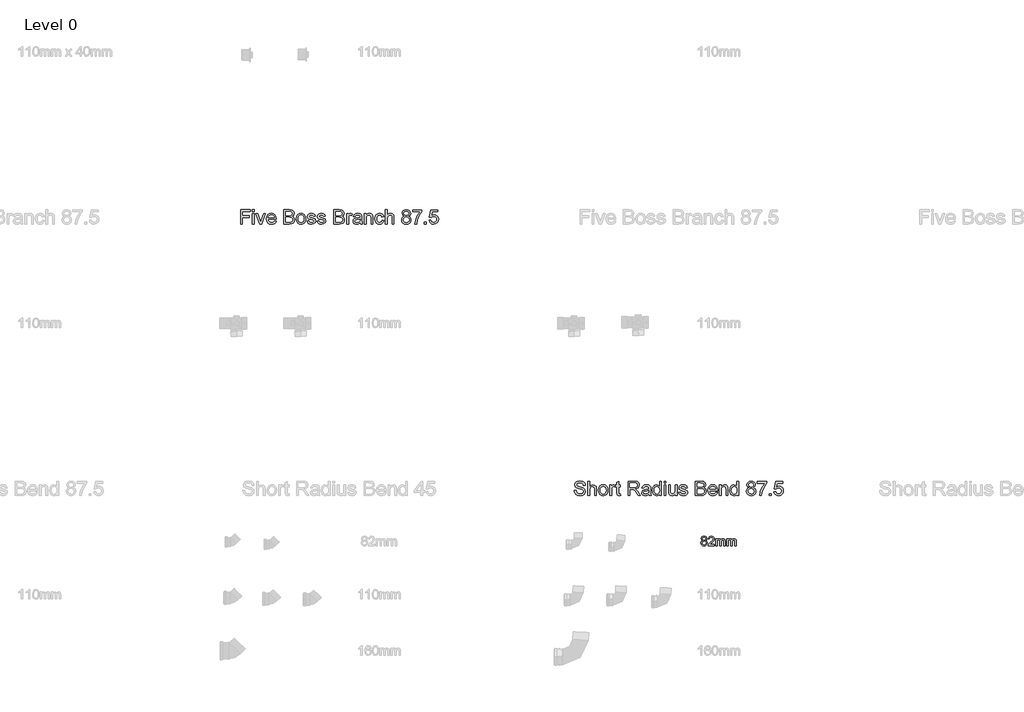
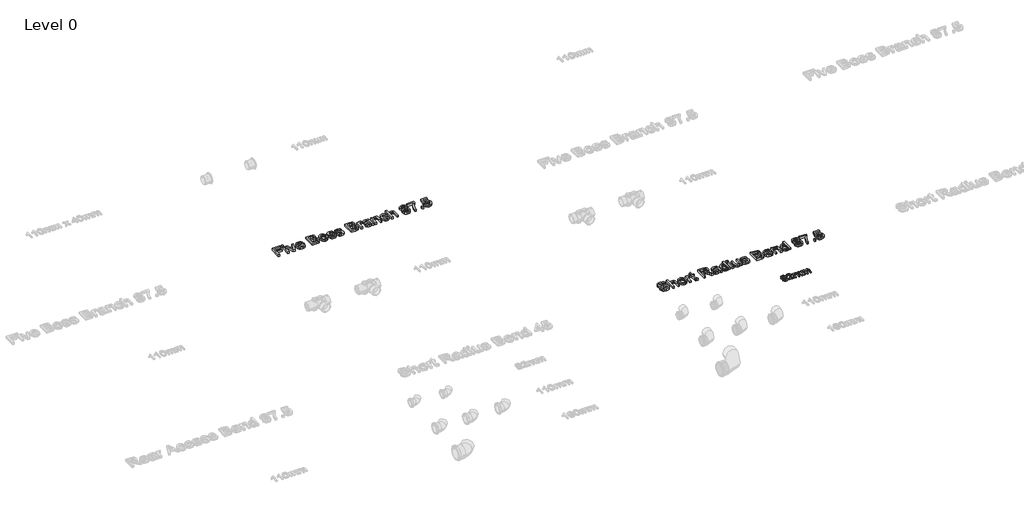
# One storey, part 15 of 23: 3 proxies.
"""IFC4 building model written with IfcOpenShell, lengths in millimetres."""

from ifc_helpers import new_model, si_unit, origin, origin_with_axes, place, context, project, spatial, polyline, outline, extrude, element, save

model = new_model("IFC4")

# Units and contexts
model_context = context("Model", 3, world=origin())
ifc_project = project(units=[si_unit("LENGTHUNIT", "METRE", prefix="MILLI")], contexts=[model_context])

# Site, building, storey
site = spatial("IfcSite", under=ifc_project)
building = spatial("IfcBuilding", under=site)
storey = spatial("IfcBuildingStorey", under=building, Name="Level 0", Elevation=0.0)

# Proxies
placement = place(None, origin())
element("IfcBuildingElementProxy", 1, Name="100mm Arial", ObjectType="100mm Arial", at=placement, inside=storey, context=model_context, shape_type="SweptSolid", body=[
    extrude(outline(polyline([(-3282.2581649, 440.881174), (-3293.4721072, 448.5254048), (-3297.1139341, 460.4244433), (-3295.1307611, 470.0458375), (-3289.1812418, 477.9965587), (-3279.9324438, 483.3330971), (-3268.0514341, 485.1119433), (-3256.0983091, 483.2910298), (-3246.7293188, 477.8282894), (-3240.6716264, 469.7513663), (-3238.6523957, 460.0879048), (-3242.2461457, 448.4893471), (-3253.147588, 440.881174), (-3240.0586457, 431.2297317), (-3235.5754726, 415.304251), (-3237.7990303, 403.537424), (-3244.4697034, 393.8138663), (-3254.7701841, 387.287424), (-3267.8831649, 385.1119433), (-3280.9961457, 387.2964385), (-3291.2966264, 393.849924), (-3297.9672995, 403.6666308), (-3300.1908572, 415.6407894), (-3295.5273957, 431.9388663), (-3282.2581649, 440.881174)]), holes=[polyline([(-3284.8062418, 460.0638663), (-3280.4432611, 450.4004048), (-3267.7389341, 446.6504048), (-3255.2870111, 450.3763663), (-3250.960088, 459.5109817), (-3255.4312418, 468.9701163), (-3267.8831649, 472.804251), (-3280.3711457, 469.054251), (-3284.8062418, 460.0638663)]), polyline([(-3287.8831649, 416.0734817), (-3285.8278764, 406.8066548), (-3278.5562418, 399.8715587), (-3267.7870111, 397.4196356), (-3253.1235495, 402.5758856), (-3247.8831649, 415.6888663), (-3253.2918188, 429.054251), (-3259.7221072, 433.0205971), (-3268.1956649, 434.3427125), (-3282.678838, 429.1263663), (-3287.8831649, 416.0734817)])]), origin_with_axes(), (0.0, 0.0, 1.0), 15.0),
    extrude(outline(polyline([(-3161.7293188, 398.9580971), (-3161.7293188, 386.6504048), (-3226.3447034, 386.6504048), (-3225.022588, 395.1359817), (-3217.5466264, 408.2008856), (-3202.1379726, 422.4677125), (-3180.8879726, 442.9725202), (-3175.5754726, 456.9148279), (-3180.5874918, 468.2008856), (-3193.6764341, 472.804251), (-3207.3182611, 468.3090587), (-3212.4985495, 455.881174), (-3224.8062418, 457.4196356), (-3221.8224678, 469.3246837), (-3215.3711457, 478.0205971), (-3205.7888139, 483.3391067), (-3193.4120111, 485.1119433), (-3180.9450639, 483.1407894), (-3171.3807611, 477.2273279), (-3165.2960255, 468.3931933), (-3163.2677803, 457.6600202), (-3165.4552803, 445.9893471), (-3172.7269149, 433.9220394), (-3190.3591264, 417.0590587), (-3204.5177803, 405.2201163), (-3210.0706649, 398.9580971), (-3161.7293188, 398.9580971)])), origin_with_axes(), (0.0, 0.0, 1.0), 15.0),
    extrude(outline(polyline([(-3146.3447034, 386.6504048), (-3146.3447034, 458.9580971), (-3134.0370111, 458.9580971), (-3134.0370111, 447.0590587), (-3125.5754726, 456.8066548), (-3113.5322034, 460.4965587), (-3101.2004726, 456.7345394), (-3094.4216264, 446.193674), (-3084.8182611, 456.9208375), (-3072.6908572, 460.4965587), (-3063.4390543, 459.0091788), (-3056.5971072, 454.5470394), (-3052.3693428, 446.9899481), (-3050.960088, 436.2177125), (-3050.960088, 386.6504048), (-3063.2677803, 386.6504048), (-3063.2677803, 430.929251), (-3064.4096072, 441.2056933), (-3068.5442226, 446.2657894), (-3075.5754726, 448.1888663), (-3087.678838, 443.2609817), (-3092.4985495, 427.4677125), (-3092.4985495, 386.6504048), (-3104.8062418, 386.6504048), (-3104.8062418, 432.2994433), (-3107.6547995, 444.2225202), (-3116.9937418, 448.1888663), (-3126.1043188, 445.5446356), (-3132.1620111, 437.804251), (-3134.0370111, 423.116751), (-3134.0370111, 386.6504048), (-3146.3447034, 386.6504048)])), origin_with_axes(), (0.0, 0.0, 1.0), 15.0),
    extrude(outline(polyline([(-3032.4985495, 386.6504048), (-3032.4985495, 458.9580971), (-3020.1908572, 458.9580971), (-3020.1908572, 447.0590587), (-3011.7293188, 456.8066548), (-2999.6860495, 460.4965587), (-2987.3543188, 456.7345394), (-2980.5754726, 446.193674), (-2970.9721072, 456.9208375), (-2958.8447034, 460.4965587), (-2949.5929005, 459.0091788), (-2942.7509534, 454.5470394), (-2938.5231889, 446.9899481), (-2937.1139341, 436.2177125), (-2937.1139341, 386.6504048), (-2949.4216264, 386.6504048), (-2949.4216264, 430.929251), (-2950.5634534, 441.2056933), (-2954.6980688, 446.2657894), (-2961.7293188, 448.1888663), (-2973.8326841, 443.2609817), (-2978.6523957, 427.4677125), (-2978.6523957, 386.6504048), (-2990.960088, 386.6504048), (-2990.960088, 432.2994433), (-2993.8086457, 444.2225202), (-3003.147588, 448.1888663), (-3012.2581649, 445.5446356), (-3018.3158572, 437.804251), (-3020.1908572, 423.116751), (-3020.1908572, 386.6504048), (-3032.4985495, 386.6504048)])), origin_with_axes(), (0.0, 0.0, 1.0), 15.0),
])
element("IfcBuildingElementProxy", 2, Name="150mm Arial", ObjectType="150mm Arial", at=placement, inside=storey, context=model_context, shape_type="SweptSolid", body=[
    extrude(outline(polyline([(-8044.4510666, 3705.2145219), (-8044.4510666, 3852.9068296), (-7945.2202973, 3852.9068296), (-7945.2202973, 3834.4452911), (-8025.9895281, 3834.4452911), (-8025.9895281, 3790.5991373), (-7956.7587589, 3790.5991373), (-7956.7587589, 3772.1375988), (-8025.9895281, 3772.1375988), (-8025.9895281, 3705.2145219), (-8044.4510666, 3705.2145219)])), origin_with_axes(), (0.0, 0.0, 1.0), 25.0),
    extrude(outline(polyline([(-7922.1433743, 3834.4452911), (-7922.1433743, 3852.9068296), (-7903.6818358, 3852.9068296), (-7903.6818358, 3834.4452911), (-7922.1433743, 3834.4452911)])), origin_with_axes(), (0.0, 0.0, 1.0), 25.0),
    extrude(outline(polyline([(-7922.1433743, 3705.2145219), (-7922.1433743, 3813.6760604), (-7903.6818358, 3813.6760604), (-7903.6818358, 3705.2145219), (-7922.1433743, 3705.2145219)])), origin_with_axes(), (0.0, 0.0, 1.0), 25.0),
    extrude(outline(polyline([(-7849.3789512, 3705.2145219), (-7887.5279897, 3813.6760604), (-7867.9847204, 3813.6760604), (-7844.8717397, 3748.7000988), (-7837.912605, 3726.8491373), (-7831.0977012, 3747.4741373), (-7807.8404897, 3813.6760604), (-7788.2972204, 3813.6760604), (-7825.9775089, 3705.2145219), (-7849.3789512, 3705.2145219)])), origin_with_axes(), (0.0, 0.0, 1.0), 25.0),
    extrude(outline(polyline([(-7696.2058743, 3737.5222142), (-7678.1049127, 3735.2145219), (-7684.6268478, 3721.5756998), (-7695.0339993, 3711.3803873), (-7709.0919921, 3705.025219), (-7726.5664512, 3702.9068296), (-7748.2281098, 3706.5621782), (-7764.8957781, 3717.5282238), (-7775.5237829, 3735.0928272), (-7779.0664512, 3758.5438488), (-7775.4877252, 3782.7836325), (-7764.7515473, 3800.9116373), (-7748.3092397, 3812.2157238), (-7727.6121243, 3815.9837527), (-7707.5595401, 3812.2247383), (-7691.5364031, 3800.947695), (-7681.030093, 3782.8557479), (-7677.5279897, 3758.6520219), (-7677.6361627, 3753.6760604), (-7760.6049127, 3753.6760604), (-7757.4092997, 3739.8569498), (-7749.9859223, 3729.697695), (-7739.2722805, 3723.4506998), (-7726.2058743, 3721.3683681), (-7708.1049127, 3725.2265411), (-7696.2058743, 3737.5222142)]), holes=[polyline([(-7760.6049127, 3772.1375988), (-7695.9895281, 3772.1375988), (-7698.4865233, 3781.8912046), (-7703.381355, 3788.8683681), (-7714.1445762, 3795.3587527), (-7727.6842397, 3797.5222142), (-7740.1286507, 3795.7959522), (-7750.4186147, 3790.6171661), (-7757.5715594, 3782.5447503), (-7760.6049127, 3772.1375988)])]), origin_with_axes(), (0.0, 0.0, 1.0), 25.0),
    extrude(outline(polyline([(-7599.0664512, 3705.2145219), (-7599.0664512, 3852.9068296), (-7542.7082781, 3852.9068296), (-7515.1061147, 3848.5618777), (-7505.8302733, 3843.049558), (-7498.8080377, 3835.2025027), (-7492.912605, 3816.3082719), (-7497.8705377, 3799.0546661), (-7512.8525089, 3785.9837527), (-7502.3912709, 3780.5210123), (-7494.6614031, 3772.2097142), (-7489.8882661, 3761.5997383), (-7488.2972204, 3749.2409642), (-7492.6421723, 3729.3912046), (-7503.4053935, 3715.2565892), (-7519.4690954, 3707.7565892), (-7543.1409704, 3705.2145219), (-7599.0664512, 3705.2145219)]), holes=[polyline([(-7580.6049127, 3723.6760604), (-7542.7443358, 3723.6760604), (-7529.0424127, 3724.3972142), (-7517.4498647, 3728.4176469), (-7509.7695762, 3736.6207719), (-7506.7587589, 3749.0606758), (-7510.2924127, 3763.4116373), (-7521.74073, 3771.9753392), (-7544.5472204, 3774.4452911), (-7580.6049127, 3774.4452911), (-7580.6049127, 3723.6760604)]), polyline([(-7580.6049127, 3792.9068296), (-7546.8909704, 3792.9068296), (-7527.2034704, 3794.4933681), (-7515.3585185, 3801.3263008), (-7511.3741435, 3813.3515411), (-7515.0880858, 3825.3948104), (-7525.725105, 3832.5162046), (-7549.4510666, 3834.4452911), (-7580.6049127, 3834.4452911), (-7580.6049127, 3792.9068296)])]), origin_with_axes(), (0.0, 0.0, 1.0), 25.0),
    extrude(outline(polyline([(-7469.835682, 3759.4452911), (-7465.8422925, 3785.5961325), (-7453.8621243, 3803.9765411), (-7439.0604416, 3812.9819498), (-7421.3380858, 3815.9837527), (-7401.9435546, 3812.3284041), (-7386.4522685, 3801.3623585), (-7376.2975209, 3783.9510003), (-7372.912605, 3760.9597142), (-7374.4089993, 3742.3088729), (-7378.898182, 3728.1111565), (-7386.249444, 3717.4786445), (-7396.3320762, 3709.5234161), (-7408.3077372, 3704.5609762), (-7421.3380858, 3702.9068296), (-7440.9669921, 3706.5486565), (-7456.4402493, 3717.4741373), (-7466.4868238, 3735.2505796), (-7469.835682, 3759.4452911)]), holes=[polyline([(-7451.3741435, 3759.4813488), (-7449.2377252, 3742.7731157), (-7442.8284704, 3730.86957), (-7433.1830377, 3723.7436686), (-7421.3380858, 3721.3683681), (-7409.5472204, 3723.7571902), (-7399.9198166, 3730.9236565), (-7393.5105618, 3742.9849546), (-7391.3741435, 3760.0582719), (-7393.5240834, 3776.2797262), (-7399.9739031, 3788.0210123), (-7409.6148286, 3795.1469137), (-7421.3380858, 3797.5222142), (-7433.1830377, 3795.1559282), (-7442.8284704, 3788.05707), (-7449.2377252, 3776.1805676), (-7451.3741435, 3759.4813488)])]), origin_with_axes(), (0.0, 0.0, 1.0), 25.0),
    extrude(outline(polyline([(-7359.0664512, 3737.5222142), (-7340.6049127, 3739.8299065), (-7337.6932541, 3731.9332719), (-7332.0592397, 3726.1279835), (-7312.4799127, 3721.3683681), (-7293.6577973, 3725.7313488), (-7287.5279897, 3735.9717335), (-7293.693855, 3744.2650027), (-7312.6962589, 3749.5294258), (-7340.4967397, 3758.5618777), (-7352.6301531, 3769.1087527), (-7356.7587589, 3784.0005796), (-7353.4414512, 3797.7565892), (-7344.3909704, 3808.2674065), (-7332.6541916, 3813.7301469), (-7316.7707781, 3815.9837527), (-7294.3068358, 3812.3599546), (-7280.0279897, 3802.5522623), (-7273.6818358, 3785.9837527), (-7292.1433743, 3783.6760604), (-7299.08448, 3793.8623585), (-7315.3284704, 3797.5222142), (-7332.9967397, 3794.0246181), (-7338.2972204, 3785.8755796), (-7336.0977012, 3780.5029835), (-7329.210682, 3776.4284642), (-7313.3092397, 3772.4981758), (-7286.2118839, 3763.8082719), (-7273.6277493, 3753.9645219), (-7269.0664512, 3737.9188488), (-7274.4210185, 3720.2505796), (-7289.8717397, 3707.43207), (-7312.7323166, 3702.9068296), (-7331.3471002, 3705.08832), (-7344.9318358, 3711.6327911), (-7354.0003454, 3722.4681277), (-7359.0664512, 3737.5222142)])), origin_with_axes(), (0.0, 0.0, 1.0), 25.0),
    extrude(outline(polyline([(-7255.2202973, 3737.5222142), (-7236.7587589, 3739.8299065), (-7233.8471002, 3731.9332719), (-7228.2130858, 3726.1279835), (-7208.6337589, 3721.3683681), (-7189.8116435, 3725.7313488), (-7183.6818358, 3735.9717335), (-7189.8477012, 3744.2650027), (-7208.850105, 3749.5294258), (-7236.6505858, 3758.5618777), (-7248.7839993, 3769.1087527), (-7252.912605, 3784.0005796), (-7249.5952973, 3797.7565892), (-7240.5448166, 3808.2674065), (-7228.8080377, 3813.7301469), (-7212.9246243, 3815.9837527), (-7190.460682, 3812.3599546), (-7176.1818358, 3802.5522623), (-7169.835682, 3785.9837527), (-7188.2972204, 3783.6760604), (-7195.2383262, 3793.8623585), (-7211.4823166, 3797.5222142), (-7229.1505858, 3794.0246181), (-7234.4510666, 3785.8755796), (-7232.2515473, 3780.5029835), (-7225.3645281, 3776.4284642), (-7209.4630858, 3772.4981758), (-7182.36573, 3763.8082719), (-7169.7815954, 3753.9645219), (-7165.2202973, 3737.9188488), (-7170.5748647, 3720.2505796), (-7186.0255858, 3707.43207), (-7208.8861627, 3702.9068296), (-7227.5009464, 3705.08832), (-7241.085682, 3711.6327911), (-7250.1541916, 3722.4681277), (-7255.2202973, 3737.5222142)])), origin_with_axes(), (0.0, 0.0, 1.0), 25.0),
    extrude(outline(polyline([(-7084.4510666, 3705.2145219), (-7084.4510666, 3852.9068296), (-7028.0928935, 3852.9068296), (-7000.49073, 3848.5618777), (-6991.2148887, 3843.049558), (-6984.1926531, 3835.2025027), (-6978.2972204, 3816.3082719), (-6983.2551531, 3799.0546661), (-6998.2371243, 3785.9837527), (-6987.7758863, 3780.5210123), (-6980.0460185, 3772.2097142), (-6975.2728815, 3761.5997383), (-6973.6818358, 3749.2409642), (-6978.0267877, 3729.3912046), (-6988.7900089, 3715.2565892), (-7004.8537108, 3707.7565892), (-7028.5255858, 3705.2145219), (-7084.4510666, 3705.2145219)]), holes=[polyline([(-7065.9895281, 3723.6760604), (-7028.1289512, 3723.6760604), (-7014.4270281, 3724.3972142), (-7002.83448, 3728.4176469), (-6995.1541916, 3736.6207719), (-6992.1433743, 3749.0606758), (-6995.6770281, 3763.4116373), (-7007.1253454, 3771.9753392), (-7029.9318358, 3774.4452911), (-7065.9895281, 3774.4452911), (-7065.9895281, 3723.6760604)]), polyline([(-7065.9895281, 3792.9068296), (-7032.2755858, 3792.9068296), (-7012.5880858, 3794.4933681), (-7000.7431339, 3801.3263008), (-6996.7587589, 3813.3515411), (-7000.4727012, 3825.3948104), (-7011.1097204, 3832.5162046), (-7034.835682, 3834.4452911), (-7065.9895281, 3834.4452911), (-7065.9895281, 3792.9068296)])]), origin_with_axes(), (0.0, 0.0, 1.0), 25.0),
    extrude(outline(polyline([(-6950.6049127, 3705.2145219), (-6950.6049127, 3813.6760604), (-6934.4510666, 3813.6760604), (-6934.4510666, 3797.6303873), (-6922.9847204, 3812.4140411), (-6911.4462589, 3815.9837527), (-6892.912605, 3810.2866373), (-6899.0784704, 3793.7361565), (-6912.0592397, 3797.5222142), (-6922.4979416, 3793.8803873), (-6929.1505858, 3783.7842335), (-6932.1433743, 3762.2217335), (-6932.1433743, 3705.2145219), (-6950.6049127, 3705.2145219)])), origin_with_axes(), (0.0, 0.0, 1.0), 25.0),
    extrude(outline(polyline([(-6812.1433743, 3719.0606758), (-6830.0460185, 3706.5486565), (-6849.8236627, 3702.9068296), (-6865.2518478, 3705.0973344), (-6876.632557, 3711.6688488), (-6883.6502853, 3721.6478152), (-6885.9895281, 3734.0606758), (-6882.4558743, 3748.6640411), (-6873.1710185, 3759.2650027), (-6860.2443358, 3765.322695), (-6844.2707781, 3768.0991373), (-6812.2515473, 3774.4452911), (-6812.1433743, 3778.5558681), (-6813.4144079, 3786.7950508), (-6817.2275089, 3792.1856758), (-6825.7551531, 3796.1880796), (-6837.6361627, 3797.5222142), (-6856.3140473, 3793.9705315), (-6865.2202973, 3781.3683681), (-6883.6818358, 3783.6760604), (-6875.695057, 3801.7049065), (-6859.6133262, 3812.2698104), (-6835.256355, 3815.9837527), (-6812.882557, 3812.7025027), (-6800.2443358, 3804.46332), (-6794.5832781, 3791.9332719), (-6793.6818358, 3775.7794258), (-6793.6818358, 3752.8106758), (-6792.7443358, 3720.7373585), (-6789.0664512, 3705.2145219), (-6807.5279897, 3705.2145219), (-6812.1433743, 3719.0606758)]), holes=[polyline([(-6812.1433743, 3755.9837527), (-6841.9270281, 3750.322695), (-6857.8104416, 3747.3299065), (-6865.0039512, 3742.4621181), (-6867.5279897, 3735.3587527), (-6862.0291916, 3725.3707719), (-6845.8933743, 3721.3683681), (-6827.2154897, 3725.7854354), (-6815.1722204, 3736.4765411), (-6812.2515473, 3750.7553873), (-6812.1433743, 3755.9837527)])]), origin_with_axes(), (0.0, 0.0, 1.0), 25.0),
    extrude(outline(polyline([(-6768.2972204, 3705.2145219), (-6768.2972204, 3813.6760604), (-6749.835682, 3813.6760604), (-6749.835682, 3798.5318296), (-6735.7190954, 3811.6207719), (-6716.4462589, 3815.9837527), (-6699.0123647, 3812.4681277), (-6687.1133262, 3803.2373585), (-6681.5784704, 3789.6616373), (-6680.6049127, 3771.8130796), (-6680.6049127, 3705.2145219), (-6699.0664512, 3705.2145219), (-6699.0664512, 3769.3250988), (-6701.193855, 3785.6592335), (-6708.7118839, 3794.2950508), (-6721.3861627, 3797.5222142), (-6732.1989632, 3795.7103152), (-6741.4162108, 3790.2746181), (-6747.7308142, 3779.7728152), (-6749.835682, 3762.7625988), (-6749.835682, 3705.2145219), (-6768.2972204, 3705.2145219)])), origin_with_axes(), (0.0, 0.0, 1.0), 25.0),
    extrude(outline(polyline([(-6585.9895281, 3744.4452911), (-6567.5279897, 3742.1375988), (-6572.6752252, 3725.7178272), (-6582.3477012, 3713.3094738), (-6595.6349608, 3705.5074907), (-6611.6265473, 3702.9068296), (-6631.264468, 3706.5351349), (-6646.6205377, 3717.4200508), (-6656.5318959, 3735.0838128), (-6659.835682, 3759.0486565), (-6654.1926531, 3789.7157238), (-6647.0712589, 3801.2136205), (-6636.9931339, 3809.4212527), (-6624.936343, 3814.3431277), (-6611.8789512, 3815.9837527), (-6596.2794921, 3813.7301469), (-6583.8080377, 3806.9693296), (-6574.8612228, 3796.0618777), (-6569.835682, 3781.3683681), (-6588.2972204, 3779.0606758), (-6596.8609223, 3792.8888008), (-6611.7347204, 3797.5222142), (-6623.6653094, 3795.2415652), (-6633.1349608, 3788.3996181), (-6639.3143478, 3776.6267815), (-6641.3741435, 3759.5534642), (-6639.3594199, 3742.2502791), (-6633.3152493, 3730.4368777), (-6624.0168719, 3723.6354955), (-6612.2395281, 3721.3683681), (-6602.6797324, 3722.7836325), (-6594.8416916, 3727.0294258), (-6589.140069, 3734.213921), (-6585.9895281, 3744.4452911)])), origin_with_axes(), (0.0, 0.0, 1.0), 25.0),
    extrude(outline(polyline([(-6551.3741435, 3705.2145219), (-6551.3741435, 3852.9068296), (-6532.912605, 3852.9068296), (-6532.912605, 3798.603945), (-6518.5165714, 3811.6388008), (-6500.7852012, 3815.9837527), (-6480.0520281, 3811.2421661), (-6467.4678935, 3798.135195), (-6463.6818358, 3773.8683681), (-6463.6818358, 3705.2145219), (-6482.1433743, 3705.2145219), (-6482.1433743, 3771.9573104), (-6483.6127252, 3783.5138008), (-6488.0207781, 3791.4284642), (-6495.1241435, 3795.9987767), (-6504.679432, 3797.5222142), (-6519.8056339, 3793.4116373), (-6529.9017877, 3782.2698104), (-6532.912605, 3762.8347142), (-6532.912605, 3705.2145219), (-6551.3741435, 3705.2145219)])), origin_with_axes(), (0.0, 0.0, 1.0), 25.0),
    extrude(outline(polyline([(-6358.3212589, 3786.5606758), (-6375.1421723, 3798.0270219), (-6380.6049127, 3815.8755796), (-6377.6301531, 3830.307671), (-6368.7058743, 3842.2337527), (-6354.8326772, 3850.2385604), (-6337.0111627, 3852.9068296), (-6319.0814752, 3850.1754594), (-6305.0279897, 3841.9813488), (-6295.9414512, 3829.8659642), (-6292.912605, 3815.3707719), (-6298.30323, 3797.9729354), (-6314.6553935, 3786.5606758), (-6303.2927132, 3780.705808), (-6295.02198, 3772.0835123), (-6289.9784103, 3761.1084522), (-6288.2972204, 3748.1952911), (-6291.632557, 3730.5450508), (-6301.6385666, 3715.9597142), (-6317.0892877, 3706.1700508), (-6336.7587589, 3702.9068296), (-6356.42823, 3706.1835724), (-6371.8789512, 3716.0138008), (-6381.8849608, 3730.7388609), (-6385.2202973, 3748.7000988), (-6383.4714993, 3762.1135604), (-6378.225105, 3773.1472142), (-6369.7515473, 3781.4224546), (-6358.3212589, 3786.5606758)]), holes=[polyline([(-6366.7587589, 3749.3491373), (-6363.6758262, 3735.4488969), (-6352.7683743, 3725.0462527), (-6336.6145281, 3721.3683681), (-6324.0484223, 3723.3019618), (-6314.6193358, 3729.1027431), (-6308.7239031, 3737.8872984), (-6306.7587589, 3748.7722142), (-6308.7870041, 3759.8419258), (-6314.8717397, 3768.8202911), (-6324.5171723, 3774.7698104), (-6337.2275089, 3776.7529835), (-6349.6178334, 3774.7968536), (-6358.9522685, 3768.9284642), (-6364.8071363, 3760.1213729), (-6366.7587589, 3749.3491373)]), polyline([(-6362.1433743, 3815.3347142), (-6360.5072565, 3807.27582), (-6355.5989031, 3800.8395219), (-6347.5625449, 3796.6207719), (-6336.5424127, 3795.2145219), (-6325.7791916, 3796.6117575), (-6317.8645281, 3800.8034642), (-6312.9967397, 3807.0234161), (-6311.3741435, 3814.5053873), (-6313.0508262, 3822.2713128), (-6318.0808743, 3828.6940892), (-6326.1037108, 3833.0074907), (-6336.7587589, 3834.4452911), (-6347.4814151, 3833.0390411), (-6355.49073, 3828.8202911), (-6360.4802132, 3822.6363969), (-6362.1433743, 3815.3347142)])]), origin_with_axes(), (0.0, 0.0, 1.0), 25.0),
    extrude(outline(polyline([(-6272.1433743, 3832.1375988), (-6272.1433743, 3850.5991373), (-6175.2202973, 3850.5991373), (-6175.2202973, 3835.6712527), (-6202.7142877, 3795.9537046), (-6223.7539512, 3745.3467335), (-6230.6049127, 3705.2145219), (-6249.0664512, 3705.2145219), (-6241.7287108, 3746.8611565), (-6221.5904897, 3793.9344738), (-6193.6818358, 3832.1375988), (-6272.1433743, 3832.1375988)])), origin_with_axes(), (0.0, 0.0, 1.0), 25.0),
    extrude(outline(polyline([(-6149.835682, 3705.2145219), (-6149.835682, 3723.6760604), (-6131.3741435, 3723.6760604), (-6131.3741435, 3705.2145219), (-6149.835682, 3705.2145219)])), origin_with_axes(), (0.0, 0.0, 1.0), 25.0),
    extrude(outline(polyline([(-6101.3741435, 3744.4452911), (-6082.912605, 3746.7529835), (-6079.523182, 3735.6697503), (-6073.6097204, 3727.7325508), (-6065.1992637, 3722.9594137), (-6054.318855, 3721.3683681), (-6041.085682, 3723.5814089), (-6031.1698166, 3730.2205315), (-6024.9769079, 3740.5195099), (-6022.912605, 3753.7121181), (-6024.8461988, 3766.1339931), (-6030.64698, 3775.635195), (-6040.3600209, 3781.665844), (-6054.0303935, 3783.6760604), (-6070.2383262, 3780.4669258), (-6080.6049127, 3772.1375988), (-6099.0664512, 3774.4452911), (-6082.912605, 3850.5991373), (-6011.3741435, 3850.5991373), (-6011.3741435, 3832.1375988), (-6067.9847204, 3832.1375988), (-6075.881355, 3791.4645219), (-6062.6932541, 3799.4693296), (-6048.8741435, 3802.1375988), (-6031.6250449, 3798.8293056), (-6017.3056339, 3788.9044258), (-6007.6647084, 3773.7782238), (-6004.4510666, 3754.8659642), (-6007.3446964, 3736.4044258), (-6016.0255858, 3720.6111565), (-6032.648182, 3707.3329113), (-6054.3909704, 3702.9068296), (-6072.5234824, 3705.7508801), (-6086.9690954, 3714.2830315), (-6096.8714392, 3727.5116974), (-6101.3741435, 3744.4452911)])), origin_with_axes(), (0.0, 0.0, 1.0), 25.0),
])
element("IfcBuildingElementProxy", 3, Name="150mm Arial", ObjectType="150mm Arial", at=placement, inside=storey, context=model_context, shape_type="SweptSolid", body=[
    extrude(outline(polyline([(-4605.6049127, 955.9837527), (-4587.1433743, 955.9837527), (-4581.193855, 937.5041854), (-4566.662605, 925.8214931), (-4544.523182, 921.3683681), (-4525.2323166, 924.7397623), (-4512.7743839, 934.0065892), (-4508.6818358, 946.3924065), (-4511.7467397, 957.9128392), (-4524.2948166, 966.2962527), (-4551.1758262, 973.3455315), (-4580.1121243, 982.4500988), (-4595.8152493, 996.1880796), (-4600.9895281, 1014.541445), (-4599.389468, 1025.3542455), (-4594.5892877, 1035.4368777), (-4586.7151892, 1043.9825508), (-4575.8933743, 1050.1844738), (-4548.5255858, 1055.2145219), (-4519.318855, 1049.9500988), (-4508.1229416, 1043.4506998), (-4499.8477012, 1034.4813488), (-4494.6103214, 1023.6009402), (-4492.5279897, 1011.3683681), (-4510.9895281, 1011.3683681), (-4514.3789512, 1022.3839931), (-4521.4462589, 1030.3347142), (-4532.4889272, 1035.1484161), (-4547.804432, 1036.7529835), (-4563.4805137, 1035.166445), (-4574.2347204, 1030.4068296), (-4580.4546723, 1023.4026229), (-4582.5279897, 1015.0823104), (-4581.0586387, 1007.9879594), (-4576.6505858, 1002.2818296), (-4546.506355, 991.9693296), (-4513.8380858, 982.7025027), (-4503.3137469, 976.0047863), (-4495.9714993, 967.7385604), (-4490.2202973, 946.8611565), (-4491.874444, 935.4804474), (-4496.8368839, 924.77582), (-4504.9047925, 915.5630796), (-4515.8753454, 908.6580315), (-4543.8020281, 902.9068296), (-4561.889468, 904.4573104), (-4576.7767877, 909.1087527), (-4588.6352613, 916.8791854), (-4597.6361627, 927.7866373), (-4603.4144079, 941.0738969), (-4605.6049127, 955.9837527)])), origin_with_axes(), (0.0, 0.0, 1.0), 25.0),
    extrude(outline(polyline([(-4464.835682, 905.2145219), (-4464.835682, 1052.9068296), (-4446.3741435, 1052.9068296), (-4446.3741435, 998.603945), (-4431.9781098, 1011.6388008), (-4414.2467397, 1015.9837527), (-4393.5135666, 1011.2421661), (-4380.929432, 998.135195), (-4377.1433743, 973.8683681), (-4377.1433743, 905.2145219), (-4395.6049127, 905.2145219), (-4395.6049127, 971.9573104), (-4397.0742637, 983.5138008), (-4401.4823166, 991.4284642), (-4408.585682, 995.9987767), (-4418.1409704, 997.5222142), (-4433.2671723, 993.4116373), (-4443.3633262, 982.2698104), (-4446.3741435, 962.8347142), (-4446.3741435, 905.2145219), (-4464.835682, 905.2145219)])), origin_with_axes(), (0.0, 0.0, 1.0), 25.0),
    extrude(outline(polyline([(-4356.3741435, 959.4452911), (-4352.3807541, 985.5961325), (-4340.4005858, 1003.9765411), (-4325.5989031, 1012.9819498), (-4307.8765473, 1015.9837527), (-4288.4820161, 1012.3284041), (-4272.99073, 1001.3623585), (-4262.8359824, 983.9510003), (-4259.4510666, 960.9597142), (-4260.9474608, 942.3088729), (-4265.4366435, 928.1111565), (-4272.7879055, 917.4786445), (-4282.8705377, 909.5234161), (-4294.8461988, 904.5609762), (-4307.8765473, 902.9068296), (-4327.5054536, 906.5486565), (-4342.9787108, 917.4741373), (-4353.0252853, 935.2505796), (-4356.3741435, 959.4452911)]), holes=[polyline([(-4337.912605, 959.4813488), (-4335.7761868, 942.7731157), (-4329.366932, 930.86957), (-4319.7214993, 923.7436686), (-4307.8765473, 921.3683681), (-4296.085682, 923.7571902), (-4286.4582781, 930.9236565), (-4280.0490233, 942.9849546), (-4277.912605, 960.0582719), (-4280.0625449, 976.2797262), (-4286.5123647, 988.0210123), (-4296.1532901, 995.1469137), (-4307.8765473, 997.5222142), (-4319.7214993, 995.1559282), (-4329.366932, 988.05707), (-4335.7761868, 976.1805676), (-4337.912605, 959.4813488)])]), origin_with_axes(), (0.0, 0.0, 1.0), 25.0),
    extrude(outline(polyline([(-4238.6818358, 905.2145219), (-4238.6818358, 1013.6760604), (-4222.5279897, 1013.6760604), (-4222.5279897, 997.6303873), (-4211.0616435, 1012.4140411), (-4199.523182, 1015.9837527), (-4180.9895281, 1010.2866373), (-4187.1553935, 993.7361565), (-4200.1361627, 997.5222142), (-4210.5748647, 993.8803873), (-4217.2275089, 983.7842335), (-4220.2202973, 962.2217335), (-4220.2202973, 905.2145219), (-4238.6818358, 905.2145219)])), origin_with_axes(), (0.0, 0.0, 1.0), 25.0),
    extrude(outline(polyline([(-4130.2202973, 920.6111565), (-4127.912605, 904.6736565), (-4141.7227012, 902.9068296), (-4157.1914512, 905.9717335), (-4164.9077973, 914.0125988), (-4167.1433743, 934.9621181), (-4167.1433743, 995.2145219), (-4180.9895281, 995.2145219), (-4180.9895281, 1013.6760604), (-4167.1433743, 1013.6760604), (-4167.1433743, 1040.0342335), (-4148.6818358, 1050.8875988), (-4148.6818358, 1013.6760604), (-4130.2202973, 1013.6760604), (-4130.2202973, 995.2145219), (-4148.6818358, 995.2145219), (-4148.6818358, 935.5029835), (-4147.7082781, 925.9837527), (-4144.55323, 922.6123585), (-4138.2611627, 921.3683681), (-4130.2202973, 920.6111565)])), origin_with_axes(), (0.0, 0.0, 1.0), 25.0),
    extrude(outline(polyline([(-4051.7587589, 905.2145219), (-4051.7587589, 1052.9068296), (-3988.116932, 1052.9068296), (-3958.5676531, 1048.9224546), (-3949.4721002, 1043.4056277), (-3942.413807, 1034.8238969), (-3937.8840594, 1024.1823705), (-3936.3741435, 1012.4861565), (-3938.8756459, 997.9368777), (-3946.3801531, 985.8755796), (-3959.1130257, 977.0324306), (-3977.2996243, 972.1375988), (-3966.8068358, 964.2409642), (-3951.8428935, 945.2385604), (-3927.2154897, 905.2145219), (-3948.6698166, 905.2145219), (-3967.8885666, 935.8275027), (-3981.7707781, 956.0919258), (-3991.5243839, 965.6652431), (-4000.304432, 969.1808681), (-4011.0135666, 969.8299065), (-4033.2972204, 969.8299065), (-4033.2972204, 905.2145219), (-4051.7587589, 905.2145219)]), holes=[polyline([(-4033.2972204, 988.291445), (-3991.975105, 988.291445), (-3970.8993839, 990.9056277), (-3958.92823, 999.2710123), (-3954.835682, 1011.8010604), (-3956.7873046, 1020.806469), (-3962.6421723, 1028.0630796), (-3972.7157901, 1032.8497383), (-3987.3236627, 1034.4452911), (-4033.2972204, 1034.4452911), (-4033.2972204, 988.291445)])]), origin_with_axes(), (0.0, 0.0, 1.0), 25.0),
    extrude(outline(polyline([(-3837.1433743, 919.0606758), (-3855.0460185, 906.5486565), (-3874.8236627, 902.9068296), (-3890.2518478, 905.0973344), (-3901.632557, 911.6688488), (-3908.6502853, 921.6478152), (-3910.9895281, 934.0606758), (-3907.4558743, 948.6640411), (-3898.1710185, 959.2650027), (-3885.2443358, 965.322695), (-3869.2707781, 968.0991373), (-3837.2515473, 974.4452911), (-3837.1433743, 978.5558681), (-3838.4144079, 986.7950508), (-3842.2275089, 992.1856758), (-3850.7551531, 996.1880796), (-3862.6361627, 997.5222142), (-3881.3140473, 993.9705315), (-3890.2202973, 981.3683681), (-3908.6818358, 983.6760604), (-3900.695057, 1001.7049065), (-3884.6133262, 1012.2698104), (-3860.256355, 1015.9837527), (-3837.882557, 1012.7025027), (-3825.2443358, 1004.46332), (-3819.5832781, 991.9332719), (-3818.6818358, 975.7794258), (-3818.6818358, 952.8106758), (-3817.7443358, 920.7373585), (-3814.0664512, 905.2145219), (-3832.5279897, 905.2145219), (-3837.1433743, 919.0606758)]), holes=[polyline([(-3837.1433743, 955.9837527), (-3866.9270281, 950.322695), (-3882.8104416, 947.3299065), (-3890.0039512, 942.4621181), (-3892.5279897, 935.3587527), (-3887.0291916, 925.3707719), (-3870.8933743, 921.3683681), (-3852.2154897, 925.7854354), (-3840.1722204, 936.4765411), (-3837.2515473, 950.7553873), (-3837.1433743, 955.9837527)])]), origin_with_axes(), (0.0, 0.0, 1.0), 25.0),
    extrude(outline(polyline([(-3726.3741435, 905.2145219), (-3726.3741435, 922.6303873), (-3738.5886868, 907.837719), (-3755.4727012, 902.9068296), (-3767.4077973, 904.6916854), (-3778.3332781, 910.0462527), (-3787.5820762, 918.596433), (-3794.4871243, 929.9681277), (-3798.7870041, 943.7016012), (-3800.2202973, 959.3371181), (-3794.9378454, 988.7241373), (-3788.3392877, 1000.3797863), (-3779.1085185, 1008.9525027), (-3767.9441555, 1014.2259402), (-3755.5448166, 1015.9837527), (-3738.5255858, 1010.9537046), (-3726.3741435, 997.8827911), (-3726.3741435, 1052.9068296), (-3707.912605, 1052.9068296), (-3707.912605, 905.2145219), (-3726.3741435, 905.2145219)]), holes=[polyline([(-3781.7587589, 959.4092335), (-3779.6764272, 942.7100147), (-3773.429432, 930.8335123), (-3764.3519079, 923.7346541), (-3753.7779897, 921.3683681), (-3743.2085786, 923.6264811), (-3734.3609223, 930.40082), (-3728.3708382, 941.8175868), (-3726.3741435, 958.0029835), (-3728.4068959, 975.698296), (-3734.5051531, 987.9669258), (-3743.5781699, 995.1333921), (-3754.5352012, 997.5222142), (-3765.2172925, 995.2280436), (-3773.9702973, 988.3455315), (-3779.8116435, 976.5231157), (-3781.7587589, 959.4092335)])]), origin_with_axes(), (0.0, 0.0, 1.0), 25.0),
    extrude(outline(polyline([(-3680.2202973, 1034.4452911), (-3680.2202973, 1052.9068296), (-3661.7587589, 1052.9068296), (-3661.7587589, 1034.4452911), (-3680.2202973, 1034.4452911)])), origin_with_axes(), (0.0, 0.0, 1.0), 25.0),
    extrude(outline(polyline([(-3680.2202973, 905.2145219), (-3680.2202973, 1013.6760604), (-3661.7587589, 1013.6760604), (-3661.7587589, 905.2145219), (-3680.2202973, 905.2145219)])), origin_with_axes(), (0.0, 0.0, 1.0), 25.0),
    extrude(outline(polyline([(-3564.835682, 905.2145219), (-3564.835682, 923.8563488), (-3579.2948166, 908.1442094), (-3598.1529897, 902.9068296), (-3615.5147685, 906.5847142), (-3627.4859223, 915.8154835), (-3632.9847204, 929.4092335), (-3634.0664512, 946.572695), (-3634.0664512, 1013.6760604), (-3615.6049127, 1013.6760604), (-3615.6049127, 955.2625988), (-3614.4871243, 936.4404835), (-3607.1854416, 925.3888008), (-3593.429432, 921.3683681), (-3578.0147685, 925.478945), (-3567.8284704, 936.6748585), (-3564.835682, 957.2457719), (-3564.835682, 1013.6760604), (-3546.3741435, 1013.6760604), (-3546.3741435, 905.2145219), (-3564.835682, 905.2145219)])), origin_with_axes(), (0.0, 0.0, 1.0), 25.0),
    extrude(outline(polyline([(-3527.912605, 937.5222142), (-3509.4510666, 939.8299065), (-3506.5394079, 931.9332719), (-3500.9053935, 926.1279835), (-3481.3260666, 921.3683681), (-3462.5039512, 925.7313488), (-3456.3741435, 935.9717335), (-3462.5400089, 944.2650027), (-3481.5424127, 949.5294258), (-3509.3428935, 958.5618777), (-3521.476307, 969.1087527), (-3525.6049127, 984.0005796), (-3522.287605, 997.7565892), (-3513.2371243, 1008.2674065), (-3501.5003454, 1013.7301469), (-3485.616932, 1015.9837527), (-3463.1529897, 1012.3599546), (-3448.8741435, 1002.5522623), (-3442.5279897, 985.9837527), (-3460.9895281, 983.6760604), (-3467.9306339, 993.8623585), (-3484.1746243, 997.5222142), (-3501.8428935, 994.0246181), (-3507.1433743, 985.8755796), (-3504.943855, 980.5029835), (-3498.0568358, 976.4284642), (-3482.1553935, 972.4981758), (-3455.0580377, 963.8082719), (-3442.4739031, 953.9645219), (-3437.912605, 937.9188488), (-3443.2671723, 920.2505796), (-3458.7178935, 907.43207), (-3481.5784704, 902.9068296), (-3500.1932541, 905.08832), (-3513.7779897, 911.6327911), (-3522.8464993, 922.4681277), (-3527.912605, 937.5222142)])), origin_with_axes(), (0.0, 0.0, 1.0), 25.0),
    extrude(outline(polyline([(-3357.1433743, 905.2145219), (-3357.1433743, 1052.9068296), (-3300.7852012, 1052.9068296), (-3273.1830377, 1048.5618777), (-3263.9071964, 1043.049558), (-3256.8849608, 1035.2025027), (-3250.9895281, 1016.3082719), (-3255.9474608, 999.0546661), (-3270.929432, 985.9837527), (-3260.468194, 980.5210123), (-3252.7383262, 972.2097142), (-3247.9651892, 961.5997383), (-3246.3741435, 949.2409642), (-3250.7190954, 929.3912046), (-3261.4823166, 915.2565892), (-3277.5460185, 907.7565892), (-3301.2178935, 905.2145219), (-3357.1433743, 905.2145219)]), holes=[polyline([(-3338.6818358, 923.6760604), (-3300.8212589, 923.6760604), (-3287.1193358, 924.3972142), (-3275.5267877, 928.4176469), (-3267.8464993, 936.6207719), (-3264.835682, 949.0606758), (-3268.3693358, 963.4116373), (-3279.8176531, 971.9753392), (-3302.6241435, 974.4452911), (-3338.6818358, 974.4452911), (-3338.6818358, 923.6760604)]), polyline([(-3338.6818358, 992.9068296), (-3304.9678935, 992.9068296), (-3285.2803935, 994.4933681), (-3273.4354416, 1001.3263008), (-3269.4510666, 1013.3515411), (-3273.1650089, 1025.3948104), (-3283.8020281, 1032.5162046), (-3307.5279897, 1034.4452911), (-3338.6818358, 1034.4452911), (-3338.6818358, 992.9068296)])]), origin_with_axes(), (0.0, 0.0, 1.0), 25.0),
    extrude(outline(polyline([(-3147.3597204, 937.5222142), (-3129.2587589, 935.2145219), (-3135.780694, 921.5756998), (-3146.1878454, 911.3803873), (-3160.2458382, 905.025219), (-3177.7202973, 902.9068296), (-3199.381956, 906.5621782), (-3216.0496243, 917.5282238), (-3226.6776291, 935.0928272), (-3230.2202973, 958.5438488), (-3226.6415714, 982.7836325), (-3215.9053935, 1000.9116373), (-3199.4630858, 1012.2157238), (-3178.7659704, 1015.9837527), (-3158.7133863, 1012.2247383), (-3142.6902493, 1000.947695), (-3132.1839392, 982.8557479), (-3128.6818358, 958.6520219), (-3128.7900089, 953.6760604), (-3211.7587589, 953.6760604), (-3208.5631459, 939.8569498), (-3201.1397685, 929.697695), (-3190.4261267, 923.4506998), (-3177.3597204, 921.3683681), (-3159.2587589, 925.2265411), (-3147.3597204, 937.5222142)]), holes=[polyline([(-3211.7587589, 972.1375988), (-3147.1433743, 972.1375988), (-3149.6403695, 981.8912046), (-3154.5352012, 988.8683681), (-3165.2984223, 995.3587527), (-3178.8380858, 997.5222142), (-3191.2824969, 995.7959522), (-3201.5724608, 990.6171661), (-3208.7254055, 982.5447503), (-3211.7587589, 972.1375988)])]), origin_with_axes(), (0.0, 0.0, 1.0), 25.0),
    extrude(outline(polyline([(-3110.2202973, 905.2145219), (-3110.2202973, 1013.6760604), (-3091.7587589, 1013.6760604), (-3091.7587589, 998.5318296), (-3077.6421723, 1011.6207719), (-3058.3693358, 1015.9837527), (-3040.9354416, 1012.4681277), (-3029.0364031, 1003.2373585), (-3023.5015473, 989.6616373), (-3022.5279897, 971.8130796), (-3022.5279897, 905.2145219), (-3040.9895281, 905.2145219), (-3040.9895281, 969.3250988), (-3043.116932, 985.6592335), (-3050.6349608, 994.2950508), (-3063.3092397, 997.5222142), (-3074.1220401, 995.7103152), (-3083.3392877, 990.2746181), (-3089.6538911, 979.7728152), (-3091.7587589, 962.7625988), (-3091.7587589, 905.2145219), (-3110.2202973, 905.2145219)])), origin_with_axes(), (0.0, 0.0, 1.0), 25.0),
    extrude(outline(polyline([(-2930.2202973, 905.2145219), (-2930.2202973, 922.6303873), (-2942.4348406, 907.837719), (-2959.318855, 902.9068296), (-2971.2539512, 904.6916854), (-2982.179432, 910.0462527), (-2991.42823, 918.596433), (-2998.3332781, 929.9681277), (-3002.6331579, 943.7016012), (-3004.0664512, 959.3371181), (-2998.7839993, 988.7241373), (-2992.1854416, 1000.3797863), (-2982.9546723, 1008.9525027), (-2971.7903094, 1014.2259402), (-2959.3909704, 1015.9837527), (-2942.3717397, 1010.9537046), (-2930.2202973, 997.8827911), (-2930.2202973, 1052.9068296), (-2911.7587589, 1052.9068296), (-2911.7587589, 905.2145219), (-2930.2202973, 905.2145219)]), holes=[polyline([(-2985.6049127, 959.4092335), (-2983.522581, 942.7100147), (-2977.2755858, 930.8335123), (-2968.1980618, 923.7346541), (-2957.6241435, 921.3683681), (-2947.0547324, 923.6264811), (-2938.2070762, 930.40082), (-2932.2169921, 941.8175868), (-2930.2202973, 958.0029835), (-2932.2530497, 975.698296), (-2938.351307, 987.9669258), (-2947.4243238, 995.1333921), (-2958.381355, 997.5222142), (-2969.0634464, 995.2280436), (-2977.8164512, 988.3455315), (-2983.6577973, 976.5231157), (-2985.6049127, 959.4092335)])]), origin_with_axes(), (0.0, 0.0, 1.0), 25.0),
    extrude(outline(polyline([(-2804.0904897, 986.5606758), (-2820.9114031, 998.0270219), (-2826.3741435, 1015.8755796), (-2823.3993839, 1030.307671), (-2814.475105, 1042.2337527), (-2800.6019079, 1050.2385604), (-2782.7803935, 1052.9068296), (-2764.850706, 1050.1754594), (-2750.7972204, 1041.9813488), (-2741.710682, 1029.8659642), (-2738.6818358, 1015.3707719), (-2744.0724608, 997.9729354), (-2760.4246243, 986.5606758), (-2749.061944, 980.705808), (-2740.7912108, 972.0835123), (-2735.7476411, 961.1084522), (-2734.0664512, 948.1952911), (-2737.4017877, 930.5450508), (-2747.4077973, 915.9597142), (-2762.8585185, 906.1700508), (-2782.5279897, 902.9068296), (-2802.1974608, 906.1835724), (-2817.648182, 916.0138008), (-2827.6541916, 930.7388609), (-2830.9895281, 948.7000988), (-2829.24073, 962.1135604), (-2823.9943358, 973.1472142), (-2815.5207781, 981.4224546), (-2804.0904897, 986.5606758)]), holes=[polyline([(-2812.5279897, 949.3491373), (-2809.445057, 935.4488969), (-2798.537605, 925.0462527), (-2782.3837589, 921.3683681), (-2769.8176531, 923.3019618), (-2760.3885666, 929.1027431), (-2754.4931339, 937.8872984), (-2752.5279897, 948.7722142), (-2754.5562348, 959.8419258), (-2760.6409704, 968.8202911), (-2770.2864031, 974.7698104), (-2782.9967397, 976.7529835), (-2795.3870642, 974.7968536), (-2804.7214993, 968.9284642), (-2810.5763671, 960.1213729), (-2812.5279897, 949.3491373)]), polyline([(-2807.912605, 1015.3347142), (-2806.2764872, 1007.27582), (-2801.3681339, 1000.8395219), (-2793.3317757, 996.6207719), (-2782.3116435, 995.2145219), (-2771.5484223, 996.6117575), (-2763.6337589, 1000.8034642), (-2758.7659704, 1007.0234161), (-2757.1433743, 1014.5053873), (-2758.820057, 1022.2713128), (-2763.850105, 1028.6940892), (-2771.8729416, 1033.0074907), (-2782.5279897, 1034.4452911), (-2793.2506459, 1033.0390411), (-2801.2599608, 1028.8202911), (-2806.249444, 1022.6363969), (-2807.912605, 1015.3347142)])]), origin_with_axes(), (0.0, 0.0, 1.0), 25.0),
    extrude(outline(polyline([(-2717.912605, 1032.1375988), (-2717.912605, 1050.5991373), (-2620.9895281, 1050.5991373), (-2620.9895281, 1035.6712527), (-2648.4835185, 995.9537046), (-2669.523182, 945.3467335), (-2676.3741435, 905.2145219), (-2694.835682, 905.2145219), (-2687.4979416, 946.8611565), (-2667.3597204, 993.9344738), (-2639.4510666, 1032.1375988), (-2717.912605, 1032.1375988)])), origin_with_axes(), (0.0, 0.0, 1.0), 25.0),
    extrude(outline(polyline([(-2595.6049127, 905.2145219), (-2595.6049127, 923.6760604), (-2577.1433743, 923.6760604), (-2577.1433743, 905.2145219), (-2595.6049127, 905.2145219)])), origin_with_axes(), (0.0, 0.0, 1.0), 25.0),
    extrude(outline(polyline([(-2547.1433743, 944.4452911), (-2528.6818358, 946.7529835), (-2525.2924127, 935.6697503), (-2519.3789512, 927.7325508), (-2510.9684945, 922.9594137), (-2500.0880858, 921.3683681), (-2486.8549127, 923.5814089), (-2476.9390473, 930.2205315), (-2470.7461387, 940.5195099), (-2468.6818358, 953.7121181), (-2470.6154296, 966.1339931), (-2476.4162108, 975.635195), (-2486.1292517, 981.665844), (-2499.7996243, 983.6760604), (-2516.007557, 980.4669258), (-2526.3741435, 972.1375988), (-2544.835682, 974.4452911), (-2528.6818358, 1050.5991373), (-2457.1433743, 1050.5991373), (-2457.1433743, 1032.1375988), (-2513.7539512, 1032.1375988), (-2521.6505858, 991.4645219), (-2508.4624848, 999.4693296), (-2494.6433743, 1002.1375988), (-2477.3942757, 998.8293056), (-2463.0748647, 988.9044258), (-2453.4339392, 973.7782238), (-2450.2202973, 954.8659642), (-2453.1139272, 936.4044258), (-2461.7948166, 920.6111565), (-2478.4174127, 907.3329113), (-2500.1602012, 902.9068296), (-2518.2927132, 905.7508801), (-2532.7383262, 914.2830315), (-2542.6406699, 927.5116974), (-2547.1433743, 944.4452911)])), origin_with_axes(), (0.0, 0.0, 1.0), 25.0),
])

save(model, "model.ifc")
